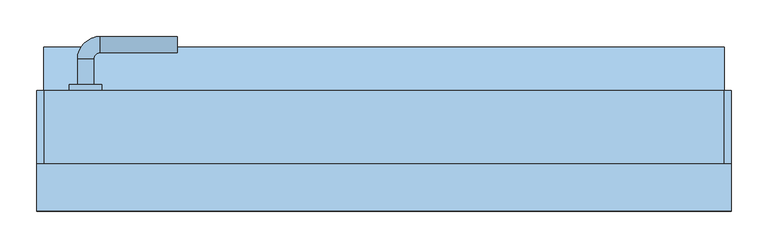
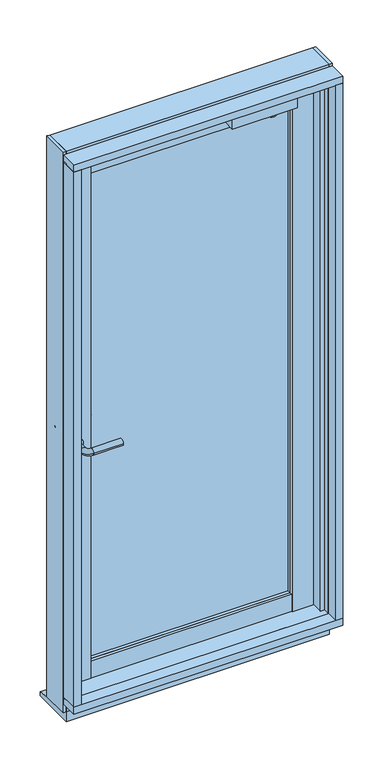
"""IFC4 building model written with IfcOpenShell, lengths in millimetres: window geometry, FNSⅡ100R_個別防火_RC枠_単窓 : 片開き框ドア."""

from ifc_helpers import new_model, si_unit, point, frame, frame_2d, origin, place, context, project, spatial, polyline, circle_curve, ellipse_curve, trimmed, segment, composite_curve, outline, extrude, faceted_brep, source, transform, mapped, element, save
from ifc_brep_helpers import plane_surface, cylinder_surface, revolved_surface, advanced_brep


def window_9ecc36ba(model_context):
    return source(origin(), model_context, "Body", "SolidModel", [
        extrude(outline(composite_curve([segment(trimmed(circle_curve(frame_2d((269.0, -29.7)), 16.1), [point((285.1, -29.7))], [point((252.9, -29.7))], False, "CARTESIAN"), True, "CONTINUOUS"), segment(trimmed(circle_curve(frame_2d((269.0, -29.7)), 16.1), [point((252.9, -29.7))], [point((285.1, -29.7))], False, "CARTESIAN"), True, "CONTINUOUS")], self_intersect=False)), frame((0.0, 0.0, 2807.0), z_axis=(0.0, 0.0, 1.0), x_axis=(1.0, 0.0, 0.0)), (0.0, 0.0, 1.0), 8.0),
        extrude(outline(polyline([(350.0, -4.2), (350.0, -49.2), (120.0, -49.2), (120.0, -4.2), (350.0, -4.2)])), frame((0.0, 0.0, 2815.0), z_axis=(0.0, 0.0, 1.0), x_axis=(1.0, 0.0, 0.0)), (0.0, 0.0, 1.0), 51.0),
        advanced_brep(
        [(-397.0, 55.0, 1800.0), (-419.0, 55.0, 1800.0), (-419.0, 98.0, 1800.0), (-397.0, 98.0, 1800.0), (-388.0, 107.0, 1800.0), (-388.0, 129.0, 1800.0), (-283.0, 129.0, 1800.0), (-283.0, 107.0, 1800.0)],
        [
            (0, 1, circle_curve(frame((-408.0, 55.0, 1800.0), z_axis=(0.0, 1.0, 0.0), x_axis=(-1.0, 0.0, 0.0)), 11.0)),
            (1, 2),
            (2, 3, circle_curve(frame((-408.0, 98.0, 1800.0), z_axis=(0.0, -1.0, 0.0), x_axis=(-1.0, 0.0, 0.0)), 11.0)),
            (3, 0),
            (4, 5, circle_curve(frame((-388.0, 118.0, 1800.0), z_axis=(1.0, 0.0, 0.0), x_axis=(0.0, 1.0, 0.0)), 11.0)),
            (5, 6),
            (6, 7, circle_curve(frame((-283.0, 118.0, 1800.0), z_axis=(-1.0, 0.0, 0.0), x_axis=(0.0, 1.0, 0.0)), 11.0)),
            (7, 4),
            (5, 4, circle_curve(frame((-388.0, 118.0, 1800.0), z_axis=(1.0, 0.0, 0.0), x_axis=(0.0, 1.0, 0.0)), 11.0)),
            (7, 6, circle_curve(frame((-283.0, 118.0, 1800.0), z_axis=(-1.0, 0.0, 0.0), x_axis=(0.0, 1.0, 0.0)), 11.0)),
            (0, 1, circle_curve(frame((-408.0, 55.0, 1800.0), z_axis=(0.0, -1.0, 0.0), x_axis=(-1.0, 0.0, 0.0)), 11.0)),
            (3, 2, circle_curve(frame((-408.0, 98.0, 1800.0), z_axis=(0.0, -1.0, 0.0), x_axis=(-1.0, 0.0, 0.0)), 11.0)),
            (4, 3, circle_curve(frame((-388.0, 98.0, 1800.0), z_axis=(0.0, 0.0, 1.0), x_axis=(-1.0, 0.0, 0.0)), 9.0)),
            (2, 5, circle_curve(frame((-388.0, 98.0, 1800.0), z_axis=(0.0, 0.0, -1.0), x_axis=(-1.0, 0.0, 0.0)), 31.0)),
        ],
        [
            cylinder_surface(frame((-408.0, 55.0, 1800.0), z_axis=(0.0, -1.0, 0.0), x_axis=(-1.0, 0.0, 0.0)), 11.0),
            cylinder_surface(frame((-388.0, 118.0, 1800.0), z_axis=(-1.0, 0.0, 0.0), x_axis=(0.0, 1.0, 0.0)), 11.0),
            plane_surface(frame((-408.0, 55.0, 1800.0), z_axis=(0.0, -1.0, 0.0), x_axis=(0.0, 0.0, 1.0))),
            revolved_surface(trimmed(ellipse_curve(frame((-408.0, 98.0, 1800.0), z_axis=(0.0, -1.0, 0.0), x_axis=(-1.0, 0.0, 0.0)), 11.0, 11.0), [point((-419.0, 98.0, 1800.0))], [point((-397.0, 98.0, 1800.0))], True, "CARTESIAN"), (-388.0, 98.0, 1800.0), (0.0, 0.0, -1.0)),
            revolved_surface(trimmed(ellipse_curve(frame((-408.0, 98.0, 1800.0), z_axis=(0.0, -1.0, 0.0), x_axis=(-1.0, 0.0, 0.0)), 11.0, 11.0), [point((-397.0, 98.0, 1800.0))], [point((-419.0, 98.0, 1800.0))], True, "CARTESIAN"), (-388.0, 98.0, 1800.0), (0.0, 0.0, -1.0)),
            plane_surface(frame((-283.0, 118.0, 1800.0), z_axis=(1.0, 0.0, 0.0), x_axis=(0.0, 0.0, 1.0))),
        ],
        [
            (0, [[1, 2, 3, 4]]),
            (1, [[5, 6, 7, 8]]),
            (1, [[9, -8, 10, -6]]),
            (2, [[11, -1]]),
            (0, [[-11, -4, 12, -2]]),
            (3, [[13, -3, 14, -5]]),
            (4, [[-14, -12, -13, -9]]),
            (5, [[-7, -10]]),
        ],
    ),
        extrude(outline(composite_curve([segment(trimmed(circle_curve(frame_2d((1800.0, -408.0)), 22.0), [point((1800.0, -430.0))], [point((1800.0, -386.0))], False, "CARTESIAN"), True, "CONTINUOUS"), segment(trimmed(circle_curve(frame_2d((1800.0, -408.0)), 22.0), [point((1800.0, -386.0))], [point((1800.0, -430.0))], False, "CARTESIAN"), True, "CONTINUOUS")], self_intersect=False)), frame((0.0, 55.0, 0.0), z_axis=(0.0, 1.0, 0.0), x_axis=(0.0, 0.0, 1.0)), (0.0, 0.0, 1.0), 8.0),
        extrude(outline(composite_curve([segment(trimmed(circle_curve(frame_2d((1800.0, -408.0)), 22.0), [point((1800.0, -386.0))], [point((1800.0, -430.0))], False, "CARTESIAN"), True, "CONTINUOUS"), segment(trimmed(circle_curve(frame_2d((1800.0, -408.0)), 22.0), [point((1800.0, -430.0))], [point((1800.0, -386.0))], False, "CARTESIAN"), True, "CONTINUOUS")], self_intersect=False)), frame((0.0, -14.0, 0.0), z_axis=(0.0, 1.0, 0.0), x_axis=(0.0, 0.0, 1.0)), (0.0, 0.0, 1.0), 8.0),
        advanced_brep(
        [(-283.0, -80.0, 1800.0), (-283.0, -58.0, 1800.0), (-419.0, -6.0, 1800.0), (-397.0, -6.0, 1800.0), (-419.0, -49.0, 1800.0), (-397.0, -49.0, 1800.0), (-388.0, -58.0, 1800.0), (-388.0, -80.0, 1800.0)],
        [
            (0, 1, circle_curve(frame((-283.0, -69.0, 1800.0), z_axis=(1.0, 0.0, 0.0), x_axis=(0.0, 1.0, 0.0)), 11.0)),
            (1, 0, circle_curve(frame((-283.0, -69.0, 1800.0), z_axis=(1.0, 0.0, 0.0), x_axis=(0.0, 1.0, 0.0)), 11.0)),
            (2, 3, circle_curve(frame((-408.0, -6.0, 1800.0), z_axis=(0.0, 1.0, 0.0), x_axis=(1.0, 0.0, 0.0)), 11.0)),
            (3, 2, circle_curve(frame((-408.0, -6.0, 1800.0), z_axis=(0.0, 1.0, 0.0), x_axis=(1.0, 0.0, 0.0)), 11.0)),
            (2, 4),
            (4, 5, circle_curve(frame((-408.0, -49.0, 1800.0), z_axis=(0.0, 1.0, 0.0), x_axis=(1.0, 0.0, 0.0)), 11.0)),
            (5, 3),
            (5, 4, circle_curve(frame((-408.0, -49.0, 1800.0), z_axis=(0.0, 1.0, 0.0), x_axis=(1.0, 0.0, 0.0)), 11.0)),
            (6, 5, circle_curve(frame((-388.0, -49.0, 1800.0), z_axis=(0.0, 0.0, -1.0), x_axis=(-1.0, 0.0, 0.0)), 9.0)),
            (4, 7, circle_curve(frame((-388.0, -49.0, 1800.0), z_axis=(0.0, 0.0, 1.0), x_axis=(-1.0, 0.0, 0.0)), 31.0)),
            (7, 6, circle_curve(frame((-388.0, -69.0, 1800.0), z_axis=(-1.0, 0.0, 0.0), x_axis=(0.0, 1.0, 0.0)), 11.0)),
            (6, 7, circle_curve(frame((-388.0, -69.0, 1800.0), z_axis=(-1.0, 0.0, 0.0), x_axis=(0.0, 1.0, 0.0)), 11.0)),
            (7, 0),
            (1, 6),
        ],
        [
            plane_surface(frame((-283.0, -69.0, 1800.0), z_axis=(1.0, 0.0, 0.0), x_axis=(0.0, 0.0, 1.0))),
            plane_surface(frame((-408.0, -6.0, 1800.0), z_axis=(0.0, 1.0, 0.0), x_axis=(0.0, 0.0, 1.0))),
            cylinder_surface(frame((-408.0, -6.0, 1800.0), z_axis=(0.0, 1.0, 0.0), x_axis=(1.0, 0.0, 0.0)), 11.0),
            revolved_surface(trimmed(ellipse_curve(frame((-408.0, -49.0, 1800.0), z_axis=(0.0, 1.0, 0.0), x_axis=(1.0, 0.0, 0.0)), 11.0, 11.0), [point((-419.0, -49.0, 1800.0))], [point((-397.0, -49.0, 1800.0))], True, "CARTESIAN"), (-388.0, -49.0, 1800.0), (0.0, 0.0, 1.0)),
            revolved_surface(trimmed(ellipse_curve(frame((-408.0, -49.0, 1800.0), z_axis=(0.0, 1.0, 0.0), x_axis=(1.0, 0.0, 0.0)), 11.0, 11.0), [point((-397.0, -49.0, 1800.0))], [point((-419.0, -49.0, 1800.0))], True, "CARTESIAN"), (-388.0, -49.0, 1800.0), (0.0, 0.0, 1.0)),
            cylinder_surface(frame((-388.0, -69.0, 1800.0), z_axis=(-1.0, 0.0, 0.0), x_axis=(0.0, 1.0, 0.0)), 11.0),
        ],
        [
            (0, [[1, 2]]),
            (1, [[3, 4]]),
            (2, [[-3, 5, 6, 7]]),
            (2, [[-4, -7, 8, -5]]),
            (3, [[9, -6, 10, 11]]),
            (4, [[-10, -8, -9, 12]]),
            (5, [[-11, 13, -2, 14]]),
            (5, [[-12, -14, -1, -13]]),
        ],
    ),
        extrude(outline(polyline([(-356.0, 25.0), (356.0, 25.0), (356.0, 19.0), (-356.0, 19.0), (-356.0, 25.0)])), frame((0.0, 0.0, 967.0), z_axis=(0.0, 0.0, 1.0), x_axis=(1.0, 0.0, 0.0)), (0.0, 0.0, 1.0), 1822.0),
        extrude(outline(polyline([(-356.0, 43.0), (356.0, 43.0), (356.0, 37.0), (-356.0, 37.0), (-356.0, 43.0)])), frame((0.0, 0.0, 967.0), z_axis=(0.0, 0.0, 1.0), x_axis=(1.0, 0.0, 0.0)), (0.0, 0.0, 1.0), 1822.0),
        extrude(outline(polyline([(356.0, -6.0), (356.0, 6.0), (431.0, 6.0), (431.0, -6.0), (356.0, -6.0)])), frame((0.0, 0.0, 904.0), z_axis=(0.0, 0.0, 1.0), x_axis=(1.0, 0.0, 0.0)), (0.0, 0.0, 1.0), 1973.0),
        extrude(outline(polyline([(-356.0, -6.0), (-431.0, -6.0), (-431.0, 6.0), (-356.0, 6.0), (-356.0, -6.0)])), frame((0.0, 0.0, 904.0), z_axis=(0.0, 0.0, 1.0), x_axis=(1.0, 0.0, 0.0)), (0.0, 0.0, 1.0), 1973.0),
        extrude(outline(polyline([(446.0, 55.0), (446.0, 6.0), (356.0, 6.0), (356.0, 55.0), (446.0, 55.0)])), frame((0.0, 0.0, 862.0), z_axis=(0.0, 0.0, 1.0), x_axis=(1.0, 0.0, 0.0)), (0.0, 0.0, 1.0), 2032.0),
        extrude(outline(polyline([(-446.0, 55.0), (-356.0, 55.0), (-356.0, 6.0), (-446.0, 6.0), (-446.0, 55.0)])), frame((0.0, 0.0, 862.0), z_axis=(0.0, 0.0, 1.0), x_axis=(1.0, 0.0, 0.0)), (0.0, 0.0, 1.0), 2032.0),
        extrude(outline(polyline([(356.0, 6.0), (356.0, -4.2), (-356.0, -4.2), (-356.0, 6.0), (356.0, 6.0)])), frame((0.0, 0.0, 904.0), z_axis=(0.0, 0.0, 1.0), x_axis=(1.0, 0.0, 0.0)), (0.0, 0.0, 1.0), 63.0),
        extrude(outline(polyline([(356.0, 55.0), (356.0, 6.0), (-356.0, 6.0), (-356.0, 55.0), (356.0, 55.0)])), frame((0.0, 0.0, 862.0), z_axis=(0.0, 0.0, 1.0), x_axis=(1.0, 0.0, 0.0)), (0.0, 0.0, 1.0), 105.0),
        extrude(outline(polyline([(356.0, 6.0), (356.0, -4.2), (-356.0, -4.2), (-356.0, 6.0), (356.0, 6.0)])), frame((0.0, 0.0, 2789.0), z_axis=(0.0, 0.0, 1.0), x_axis=(1.0, 0.0, 0.0)), (0.0, 0.0, 1.0), 88.0),
        extrude(outline(polyline([(356.0, 55.0), (356.0, 6.0), (-356.0, 6.0), (-356.0, 55.0), (356.0, 55.0)])), frame((0.0, 0.0, 2789.0), z_axis=(0.0, 0.0, 1.0), x_axis=(1.0, 0.0, 0.0)), (0.0, 0.0, 1.0), 105.0),
        faceted_brep([(-450.0, 55.0, 850.0), (-450.0, 3.0, 850.0), (-436.3, 3.0, 850.0), (-436.3, -2.0, 850.0), (-465.0, -2.0, 850.0), (-465.0, 55.0, 850.0), (-475.0, 55.0, 2935.0), (-475.0, -45.0, 2935.0), (-465.0, -45.0, 2935.0), (-465.0, 55.0, 2935.0), (-475.0, 55.0, 840.0), (-465.0, 55.0, 840.0), (-465.0, -45.0, 840.0), (-475.0, -45.0, 840.0), (-465.0, -2.0, 2900.0), (-465.0, 55.0, 2900.0), (-450.0, 55.0, 2900.0), (-436.3, -2.0, 2900.0), (-436.3, 3.0, 2900.0), (-450.0, 3.0, 2900.0)], [[[0, 1, 2, 3, 4, 5]], [[6, 7, 8, 9]], [[10, 11, 12, 13]], [[7, 6, 10, 13]], [[8, 7, 13, 12]], [[9, 8, 12, 11, 5, 4, 14, 15]], [[6, 9, 15, 16, 0, 5, 11, 10]], [[16, 15, 14, 17, 18, 19]], [[17, 14, 4, 3]], [[16, 19, 1, 0]], [[18, 17, 3, 2]], [[19, 18, 2, 1]]]),
        faceted_brep([(450.0, 55.0, 850.0), (465.0, 55.0, 850.0), (465.0, -2.0, 850.0), (436.3, -2.0, 850.0), (436.3, 3.0, 850.0), (450.0, 3.0, 850.0), (475.0, -45.0, 2935.0), (465.0, -45.0, 2935.0), (465.0, -45.0, 840.0), (475.0, -45.0, 840.0), (436.3, 3.0, 2900.0), (450.0, 3.0, 2900.0), (475.0, 55.0, 2935.0), (465.0, 55.0, 2935.0), (465.0, 55.0, 840.0), (475.0, 55.0, 840.0), (450.0, 55.0, 2900.0), (436.3, -2.0, 2900.0), (465.0, -2.0, 2900.0), (465.0, 55.0, 2900.0)], [[[0, 1, 2, 3, 4, 5]], [[6, 7, 8, 9]], [[10, 11, 5, 4]], [[7, 6, 12, 13]], [[8, 14, 15, 9]], [[16, 11, 10, 17, 18, 19]], [[12, 6, 9, 15]], [[13, 12, 15, 14, 1, 0, 16, 19]], [[7, 13, 19, 18, 2, 1, 14, 8]], [[11, 16, 0, 5]], [[17, 10, 4, 3]], [[18, 17, 3, 2]]]),
        extrude(outline(polyline([(-465.0, -45.0), (-465.0, -2.0), (-435.0, -2.0), (-435.0, -42.5), (-450.0, -42.5), (-450.0, -65.0), (-453.0, -65.0), (-453.0, -45.0), (-465.0, -45.0)])), frame((0.0, 0.0, 900.0), z_axis=(0.0, 0.0, 1.0), x_axis=(1.0, 0.0, 0.0)), (0.0, 0.0, 1.0), 2003.0),
        extrude(outline(polyline([(465.0, -45.0), (453.0, -45.0), (453.0, -65.0), (450.0, -65.0), (450.0, -42.5), (435.0, -42.5), (435.0, -2.0), (465.0, -2.0), (465.0, -45.0)])), frame((0.0, 0.0, 900.0), z_axis=(0.0, 0.0, 1.0), x_axis=(1.0, 0.0, 0.0)), (0.0, 0.0, 1.0), 2003.0),
        extrude(outline(polyline([(-45.0, 884.0), (-45.0, 897.0), (-65.0, 897.0), (-65.0, 900.0), (2.0, 900.0), (2.0, 884.0), (-45.0, 884.0)])), frame((-453.0, 0.0, 0.0), z_axis=(1.0, 0.0, 0.0), x_axis=(0.0, 1.0, 0.0)), (0.0, 0.0, 1.0), 906.0),
        extrude(outline(polyline([(55.0, 840.0), (-45.0, 840.0), (-45.0, 884.0), (2.0, 884.0), (2.0, 850.0), (55.0, 850.0), (55.0, 840.0)])), frame((-465.0, 0.0, 0.0), z_axis=(1.0, 0.0, 0.0), x_axis=(0.0, 1.0, 0.0)), (0.0, 0.0, 1.0), 930.0),
        extrude(outline(polyline([(-2.3, 2884.0), (-39.0, 2884.0), (-39.0, 2900.0), (-65.0, 2900.0), (-65.0, 2903.0), (-45.0, 2903.0), (-45.0, 2914.5), (-2.3, 2914.5), (-2.3, 2884.0)])), frame((-450.0, 0.0, 0.0), z_axis=(1.0, 0.0, 0.0), x_axis=(0.0, 1.0, 0.0)), (0.0, 0.0, 1.0), 900.0),
        extrude(outline(polyline([(55.0, 2900.0), (3.0, 2900.0), (3.0, 2884.0), (-2.3, 2884.0), (-2.3, 2914.5), (-45.0, 2914.5), (-45.0, 2935.0), (55.0, 2935.0), (55.0, 2900.0)])), frame((-465.0, 0.0, 0.0), z_axis=(1.0, 0.0, 0.0), x_axis=(0.0, 1.0, 0.0)), (0.0, 0.0, 1.0), 930.0),
        extrude(outline(polyline([(-110.0, 900.0), (-65.0, 900.0), (-65.0, 897.0), (-45.0, 897.0), (-45.0, 875.0), (-110.0, 875.0), (-110.0, 900.0)])), frame((-475.0, 0.0, 0.0), z_axis=(1.0, 0.0, 0.0), x_axis=(0.0, 1.0, 0.0)), (0.0, 0.0, 1.0), 950.0),
        extrude(outline(polyline([(45.0, 840.0), (55.0, 840.0), (55.0, 828.4285714), (45.0, 830.0), (45.0, 840.0)])), frame((-465.0, 0.0, 0.0), z_axis=(1.0, 0.0, 0.0), x_axis=(0.0, 1.0, 0.0)), (0.0, 0.0, 1.0), 930.0),
        extrude(outline(polyline([(-45.0, 804.0), (-45.0, 840.0), (45.0, 840.0), (45.0, 830.0), (115.0, 819.0), (115.0, 804.0), (-45.0, 804.0)])), frame((-465.0, 0.0, 0.0), z_axis=(1.0, 0.0, 0.0), x_axis=(0.0, 1.0, 0.0)), (0.0, 0.0, 1.0), 930.0),
        extrude(outline(polyline([(475.0, -45.0), (475.0, -110.0), (450.0, -110.0), (450.0, -65.0), (453.0, -65.0), (453.0, -45.0), (475.0, -45.0)])), frame((0.0, 0.0, 900.0), z_axis=(0.0, 0.0, 1.0), x_axis=(1.0, 0.0, 0.0)), (0.0, 0.0, 1.0), 2000.0),
        extrude(outline(polyline([(-453.0, -45.0), (-453.0, -65.0), (-450.0, -65.0), (-450.0, -110.0), (-475.0, -110.0), (-475.0, -45.0), (-453.0, -45.0)])), frame((0.0, 0.0, 900.0), z_axis=(0.0, 0.0, 1.0), x_axis=(1.0, 0.0, 0.0)), (0.0, 0.0, 1.0), 2000.0),
        extrude(outline(polyline([(-110.0, 2925.0), (-45.0, 2925.0), (-45.0, 2903.0), (-65.0, 2903.0), (-65.0, 2900.0), (-110.0, 2900.0), (-110.0, 2925.0)])), frame((-475.0, 0.0, 0.0), z_axis=(1.0, 0.0, 0.0), x_axis=(0.0, 1.0, 0.0)), (0.0, 0.0, 1.0), 950.0),
    ])


if __name__ == "__main__":
    model = new_model("IFC4")
    model_context = context("Model", 3, world=origin())
    ifc_project = project(units=[si_unit("LENGTHUNIT", "METRE", prefix="MILLI")], contexts=[model_context])
    site = spatial("IfcSite", under=ifc_project)
    building = spatial("IfcBuilding", under=site)
    placement = place(None, origin())
    window_shape = window_9ecc36ba(model_context)
    element("IfcWindow", 1, ObjectType="FNSⅡ100R_個別防火_RC枠_単窓 : 片開き框ドア", at=placement, inside=building, context=model_context, shape_type="MappedRepresentation", body=[
        mapped(window_shape, transform((0.0, 0.0, 0.0), x_axis=(1.0, 0.0, 0.0), y_axis=(0.0, 1.0, 0.0), z_axis=(0.0, 0.0, 1.0))),
    ])
    save(model, "model.ifc")
